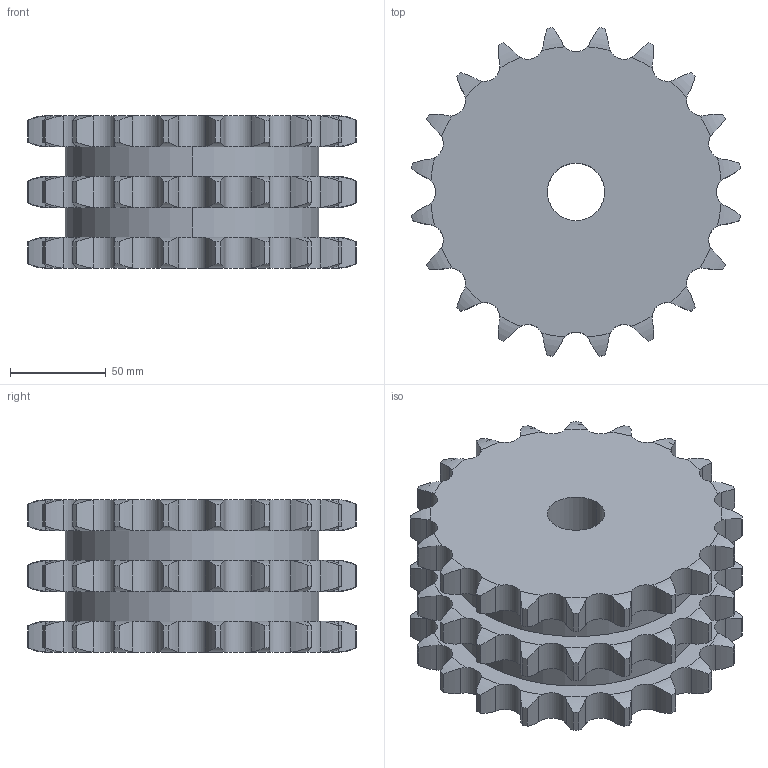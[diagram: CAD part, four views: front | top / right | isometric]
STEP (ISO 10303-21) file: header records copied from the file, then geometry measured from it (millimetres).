
FILE_DESCRIPTION((''),'2;1');
FILE_NAME('500-503-0020_PRT','2021-02-12T',('Brieden'),('Brieden'),'PRO/ENGINEER BY PARAMETRIC TECHNOLOGY CORPORATION, 2010160','PRO/ENGINEER BY PARAMETRIC TECHNOLOGY CORPORATION, 2010160','');
FILE_SCHEMA(('AUTOMOTIVE_DESIGN { 1 0 10303 214 1 1 1 1 }'));
Length unit declared in the file: millimetre
Products named in the file (1): 500-503-0020_PRT
Bounding box: 171.5 x 171.5 x 79.6 mm (x, y, z)
Volume: 1302846.8 mm3; surface area: 115545.8 mm2
Topology: 1 solids, 1 shells, 372 faces, 1098 edges, 732 vertices
Faces by surface type: cylinder 246, torus 120, plane 6
Entity records: 17816 total; most frequent: CARTESIAN_POINT 5099, ORIENTED_EDGE 2196, DIRECTION 1734, PRESENTATION_STYLE_ASSIGNMENT 1099, STYLED_ITEM 1099, CURVE_STYLE 1098, EDGE_CURVE 1098, AXIS2_PLACEMENT_3D 744
